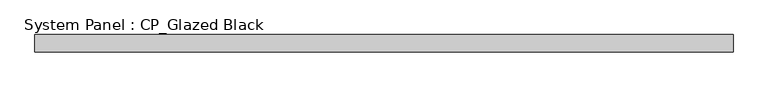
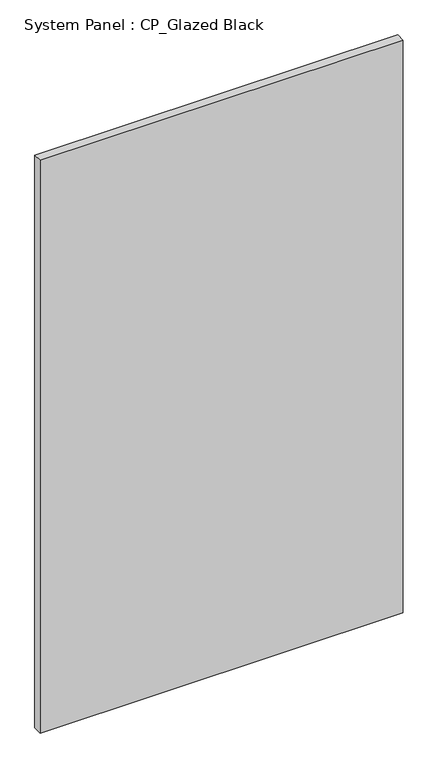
"""IFC4 building model written with IfcOpenShell, lengths in millimetres: plate geometry, System Panel : CP_Glazed Black."""

from ifc_helpers import new_model, si_unit, origin, origin_with_axes, place, context, project, spatial, polyline, outline, extrude, source, transform, mapped, element, save


def system_panel_cp_glazed_black_0c9bf213(model_context):
    return source(origin(), model_context, "Body", "SweptSolid", [
        extrude(outline(polyline([(510.4730518, 19.05), (-510.4730518, 19.05), (-510.4730518, 44.45), (510.4730518, 44.45), (510.4730518, 19.05)])), origin_with_axes(), (0.0, 0.0, 1.0), 1701.8),
    ])


if __name__ == "__main__":
    model = new_model("IFC4")
    model_context = context("Model", 3, world=origin())
    ifc_project = project(units=[si_unit("LENGTHUNIT", "METRE", prefix="MILLI")], contexts=[model_context])
    site = spatial("IfcSite", under=ifc_project)
    building = spatial("IfcBuilding", under=site)
    placement = place(None, origin())
    system_panel_cp_glazed_black_shape = system_panel_cp_glazed_black_0c9bf213(model_context)
    element("IfcPlate", 1, ObjectType="System Panel : CP_Glazed Black", at=placement, inside=building, context=model_context, shape_type="MappedRepresentation", body=[
        mapped(system_panel_cp_glazed_black_shape, transform((0.0, 0.0, 0.0), x_axis=(1.0, 0.0, 0.0), y_axis=(0.0, 1.0, 0.0), z_axis=(0.0, 0.0, 1.0))),
    ])
    save(model, "model.ifc")
